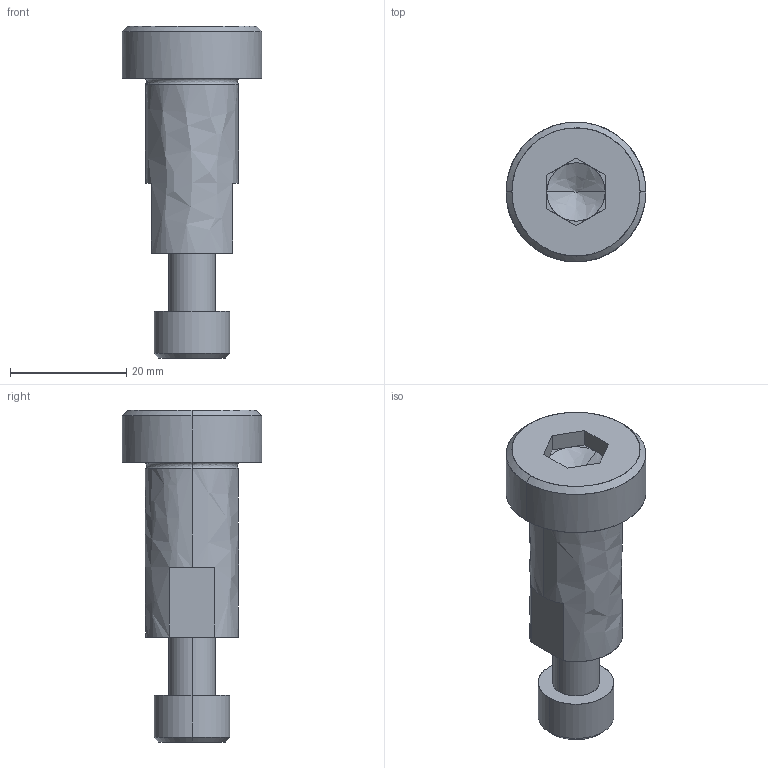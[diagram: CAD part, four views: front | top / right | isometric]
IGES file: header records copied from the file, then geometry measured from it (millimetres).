
Global section: file name: E:\UnigraphicsGraphicData\MISUMI_PRESS-PARTS\IGES\3d_sbt16-30_05073_r00.igs; native system: NX V5.0; preprocessor: UGS NX IGES V5.0; author: MISUMI; date: 20110105.162436; units: millimetre
Bounding box: 24 x 24 x 57 mm (x, y, z)
Surface area: 5104.3 mm2 (no closed solid volume)
Topology: 0 solids, 0 shells, 56 faces, 310 edges, 306 vertices
Faces by surface type: bspline 56
